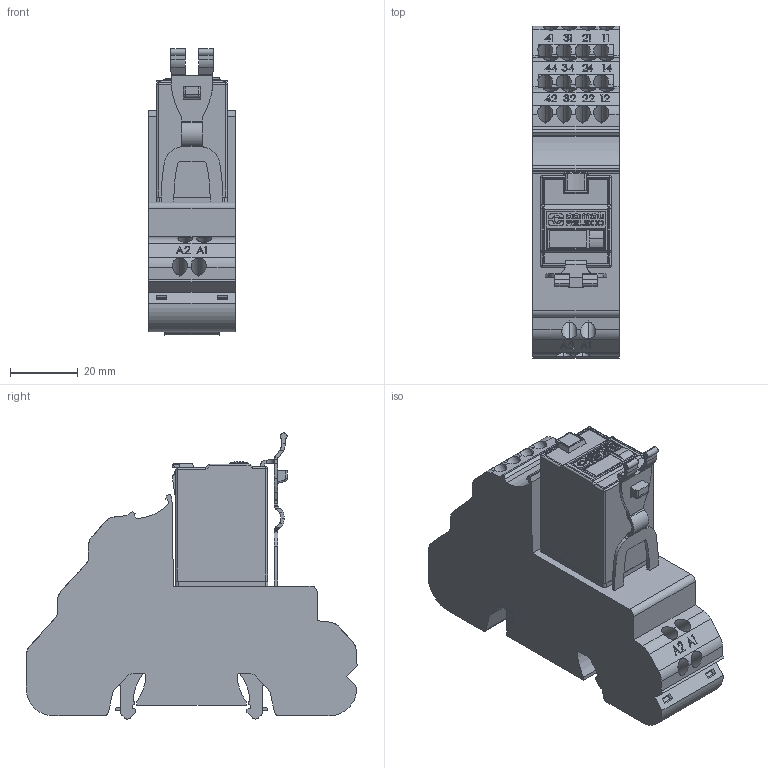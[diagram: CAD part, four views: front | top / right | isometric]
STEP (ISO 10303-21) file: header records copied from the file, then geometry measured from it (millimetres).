
FILE_DESCRIPTION (( 'STEP AP214' ), '1' );
FILE_NAME ('C9_plus_S9-PI.STEP', '2024-04-04T07:57:19', ( '' ), ( '' ), 'SwSTEP 2.0', 'SolidWorks 2022', '' );
FILE_SCHEMA (( 'AUTOMOTIVE_DESIGN' ));
Length unit declared in the file: millimetre
Products named in the file (1): C9_plus_S9-PI
Bounding box: 25.5 x 97.75 x 84.25 mm (x, y, z)
Volume: 108700.7 mm3; surface area: 27348.5 mm2
Topology: 1 solids, 1 shells, 998 faces, 2738 edges, 1798 vertices
Faces by surface type: plane 627, bspline 199, cylinder 167, sphere 4, torus 1
Entity records: 45335 total; most frequent: CARTESIAN_POINT 14214, ORIENTED_EDGE 5464, DIRECTION 4047, EDGE_CURVE 2732, VECTOR 1929, LINE 1929, VERTEX_POINT 1798, EDGE_LOOP 1066
